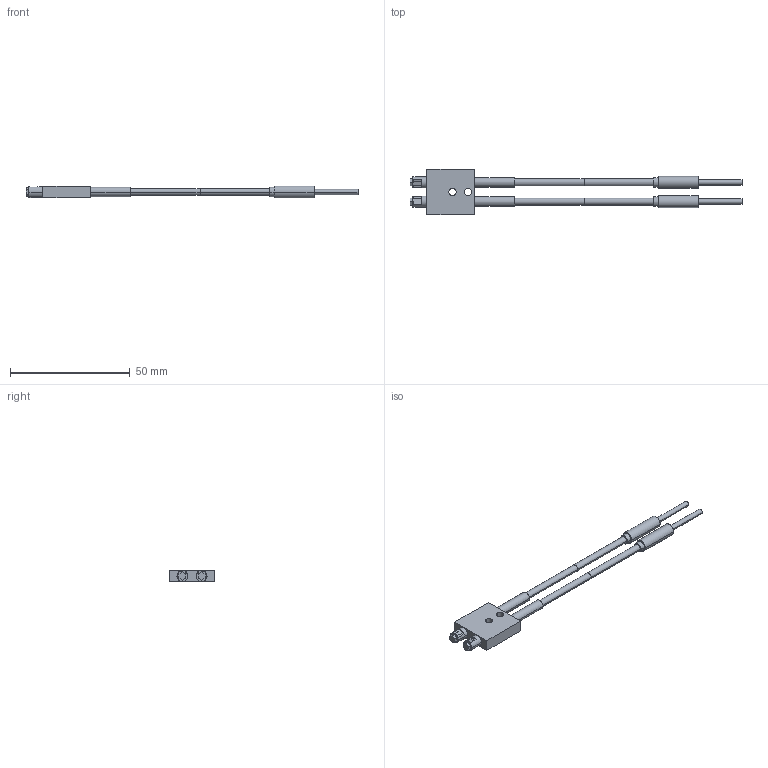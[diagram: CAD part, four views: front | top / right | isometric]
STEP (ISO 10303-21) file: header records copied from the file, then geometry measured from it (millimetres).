
FILE_DESCRIPTION (( 'STEP AP203' ), '1' );
FILE_NAME ('FD-H30-L32.STEP', '2005-09-04T09:43:41', ( '川島良英' ), ( ' ' ), 'SwSTEP 2.0', 'SolidWorks 2004251', '' );
FILE_SCHEMA (( 'CONFIG_CONTROL_DESIGN' ));
Length unit declared in the file: millimetre
Products named in the file (1): FD-H30-L32
Bounding box: 138.7 x 19 x 5 mm (x, y, z)
Volume: 4056.5 mm3; surface area: 3795.5 mm2
Topology: 3 solids, 3 shells, 82 faces, 180 edges, 120 vertices
Faces by surface type: plane 50, cylinder 32
Entity records: 2353 total; most frequent: DIRECTION 414, CARTESIAN_POINT 383, ORIENTED_EDGE 360, EDGE_CURVE 180, AXIS2_PLACEMENT_3D 151, VERTEX_POINT 120, VECTOR 112, LINE 112
